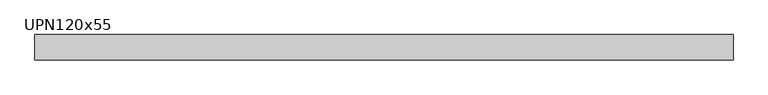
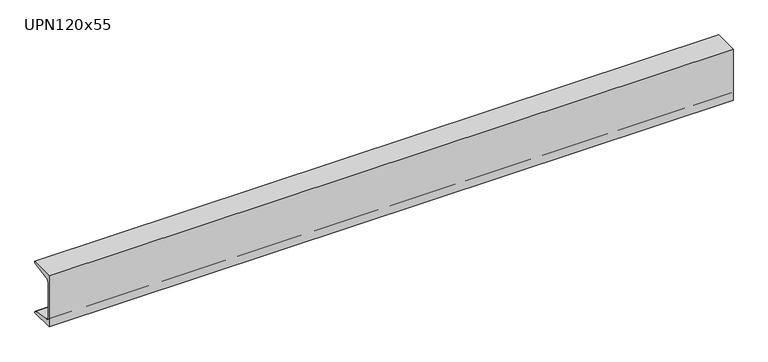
"""IFC4 building model written with IfcOpenShell, lengths in millimetres: beam geometry, M_MC Shapes : UPN120x55."""

import ifcopenshell
import ifcopenshell.guid

model = None  # the IFC model being written
_history = None  # IfcOwnerHistory: only IFC2X3 demands one
_inside = {}  # id of a spatial element -> (the spatial element, [elements in it])
_under = {}  # id of a project, library or spatial element -> (it, [spatial elements below it])
_declared = {}  # id of a project -> (the project, [libraries it declares])
_typed = {}  # id of a type object -> (the type object, [elements of that type])
_made_of = {}  # id of a material, layer set ... -> (it, [elements and type objects made of it])


def new_model(schema):
    """Start an empty IFC model of exactly this schema.

    Asked for "IFC4X3", IfcOpenShell would pick the latest addendum, in which some entities
    have other attributes; the version numbers below select the first issue.
    IFC2X3 requires an IfcOwnerHistory on every rooted entity: one is made here for all.
    """
    global model, _history
    if schema == "IFC4X3":
        model = ifcopenshell.file(schema_version=(4, 3, 0, 0))
    else:
        model = ifcopenshell.file(schema=schema)
    _inside.clear()
    _under.clear()
    _declared.clear()
    _typed.clear()
    _made_of.clear()
    _history = None
    if model.schema == "IFC2X3":
        org = make("IfcOrganization", Name="unknown")
        user = make(
            "IfcPersonAndOrganization",
            ThePerson=make("IfcPerson", FamilyName="unknown"),
            TheOrganization=org,
        )
        app = make(
            "IfcApplication",
            ApplicationDeveloper=org,
            Version="unknown",
            ApplicationFullName="unknown",
            ApplicationIdentifier="unknown",
        )
        _history = make(
            "IfcOwnerHistory",
            OwningUser=user,
            OwningApplication=app,
            ChangeAction="ADDED",
            CreationDate=0,
        )
    return model


def make(cls, **values):
    """One entity of the class cls with the attributes given. An attribute that is None is left unset."""
    return model.create_entity(
        cls, **{name: value for name, value in values.items() if value is not None}
    )


def rooted(cls, **values):
    """An entity with a GlobalId (a new one), such as an element, a storey or a relation."""
    return make(cls, GlobalId=ifcopenshell.guid.new(), OwnerHistory=_history, **values)


def si_unit(unit_type, name, prefix=None):
    """IfcSIUnit, for example si_unit("LENGTHUNIT", "METRE", prefix="MILLI")."""
    return make("IfcSIUnit", UnitType=unit_type, Prefix=prefix, Name=name)


def assignment(units):
    """IfcUnitAssignment: the units of a project."""
    return None if units is None else make("IfcUnitAssignment", Units=units)


def point(xyz):
    """IfcCartesianPoint."""
    return None if xyz is None else make("IfcCartesianPoint", Coordinates=xyz)


def direction(xyz):
    """IfcDirection."""
    return None if xyz is None else make("IfcDirection", DirectionRatios=xyz)


def frame(location, z_axis=None, x_axis=None):
    """IfcAxis2Placement3D, a coordinate frame: its origin and axes. An axis left out is left unset."""
    return make(
        "IfcAxis2Placement3D",
        Location=point(location),
        Axis=direction(z_axis),
        RefDirection=direction(x_axis),
    )


def frame_2d(location, x_axis=None):
    """IfcAxis2Placement2D, a coordinate frame in the plane: its origin and x axis."""
    return make(
        "IfcAxis2Placement2D", Location=point(location), RefDirection=direction(x_axis)
    )


def origin():
    """The frame at (0, 0, 0) with its axes left unset."""
    return frame((0.0, 0.0, 0.0))


def place(relative_to, where):
    """IfcLocalPlacement: puts the frame where relative to a parent placement (None: the world)."""
    return make(
        "IfcLocalPlacement", PlacementRelTo=relative_to, RelativePlacement=where
    )


def context(
    kind, dimensions, precision=None, world=None, true_north=None, identifier=None
):
    """IfcGeometricRepresentationContext, for example the 3D "Model" context."""
    return make(
        "IfcGeometricRepresentationContext",
        ContextIdentifier=identifier,
        ContextType=kind,
        CoordinateSpaceDimension=dimensions,
        Precision=precision,
        WorldCoordinateSystem=world,
        TrueNorth=true_north,
    )


def project(units=None, contexts=None):
    """IfcProject with its units and contexts."""
    return rooted(
        "IfcProject",
        Name="project",
        RepresentationContexts=contexts,
        UnitsInContext=assignment(units),
    )


def spatial(cls, under=None, at=None, **own):
    """A site, building, storey or space (cls), placed at a placement, below another one or the project."""
    s = rooted(cls, ObjectPlacement=at, **own)
    if under is not None:
        _under.setdefault(under.id(), (under, []))[1].append(s)
    return s


def polyline(points):
    """IfcPolyline through the points."""
    return make("IfcPolyline", Points=[point(p) for p in points])


def circle_curve(where, radius):
    """IfcCircle in the frame where."""
    return make("IfcCircle", Position=where, Radius=radius)


def trimmed(basis, trim1, trim2, sense, master):
    """IfcTrimmedCurve: the piece of a basis curve between two trims."""
    return make(
        "IfcTrimmedCurve",
        BasisCurve=basis,
        Trim1=trim1,
        Trim2=trim2,
        SenseAgreement=sense,
        MasterRepresentation=master,
    )


def segment(curve, same_sense, transition):
    """IfcCompositeCurveSegment."""
    return make(
        "IfcCompositeCurveSegment",
        Transition=transition,
        SameSense=same_sense,
        ParentCurve=curve,
    )


def composite_curve(segments, self_intersect=None):
    """IfcCompositeCurve: segments joined end to end."""
    return make("IfcCompositeCurve", Segments=segments, SelfIntersect=self_intersect)


def outline(outer, holes=None, kind="AREA"):
    """IfcArbitraryClosedProfileDef: a profile drawn as a closed curve; with holes, ...WithVoids."""
    if holes is None:
        return make("IfcArbitraryClosedProfileDef", ProfileType=kind, OuterCurve=outer)
    return make(
        "IfcArbitraryProfileDefWithVoids",
        ProfileType=kind,
        OuterCurve=outer,
        InnerCurves=holes,
    )


def extrude(swept, where, along, depth):
    """IfcExtrudedAreaSolid: the profile swept, set in the frame where, extruded along a direction by depth."""
    return make(
        "IfcExtrudedAreaSolid",
        SweptArea=swept,
        Position=where,
        ExtrudedDirection=direction(along),
        Depth=depth,
    )


def shape(context_of_items, identifier, shape_type, items):
    """IfcShapeRepresentation: the items that make up one representation, for example the "Body"."""
    return make(
        "IfcShapeRepresentation",
        ContextOfItems=context_of_items,
        RepresentationIdentifier=identifier,
        RepresentationType=shape_type,
        Items=items,
    )


def source(mapping_origin, context_of_items, identifier, shape_type, items):
    """IfcRepresentationMap: a shape defined once, which mapped items show again and again."""
    return make(
        "IfcRepresentationMap",
        MappingOrigin=mapping_origin,
        MappedRepresentation=shape(context_of_items, identifier, shape_type, items),
    )


def transform(
    local_origin,
    x_axis=None,
    y_axis=None,
    z_axis=None,
    scale=None,
    scale2=None,
    scale3=None,
    uniform=True,
):
    """IfcCartesianTransformationOperator3D, or its non-uniform kind. x_axis, y_axis, z_axis: its Axis1, 2, 3."""
    if uniform:
        return make(
            "IfcCartesianTransformationOperator3D",
            Axis1=direction(x_axis),
            Axis2=direction(y_axis),
            LocalOrigin=point(local_origin),
            Scale=scale,
            Axis3=direction(z_axis),
        )
    return make(
        "IfcCartesianTransformationOperator3DnonUniform",
        Axis1=direction(x_axis),
        Axis2=direction(y_axis),
        LocalOrigin=point(local_origin),
        Scale=scale,
        Axis3=direction(z_axis),
        Scale2=scale2,
        Scale3=scale3,
    )


def mapped(mapping_source, mapping_target):
    """IfcMappedItem: shows the shape of a source again, moved by a transform."""
    return make(
        "IfcMappedItem", MappingSource=mapping_source, MappingTarget=mapping_target
    )


def made_of(thing, what):
    """Note that an element or type object is made of a material, layer set ...; save() writes the relation."""
    if what is not None:
        _made_of.setdefault(what.id(), (what, []))[1].append(thing)
    return thing


def element(
    cls,
    number,
    at=None,
    inside=None,
    cuts=None,
    type_object=None,
    material=None,
    context=None,
    identifier="Body",
    shape_type=None,
    held_by="IfcProductDefinitionShape",
    body=None,
    shapes=None,
    **own,
):
    """One element of the class cls, such as IfcWall. Its Tag is "e" and its number.

    at: its placement. inside: the storey or other place that contains it. cuts: it is an
    opening in that element (IfcRelVoidsElement). A single representation is given by context,
    identifier, shape_type and body (its items); several are given by shapes. held_by: the class
    of the entity that holds the representations. save() writes the other relations.
    """
    e = rooted(cls, Tag="e%d" % number, ObjectPlacement=at, **own)
    if body is not None:
        shapes = [shape(context, identifier, shape_type, body)]
    if shapes is not None:
        e.Representation = make(held_by, Representations=shapes)
    if inside is not None:
        _inside.setdefault(inside.id(), (inside, []))[1].append(e)
    if cuts is not None:
        rooted(
            "IfcRelVoidsElement", RelatingBuildingElement=cuts, RelatedOpeningElement=e
        )
    if type_object is not None:
        _typed.setdefault(type_object.id(), (type_object, []))[1].append(e)
    return made_of(e, material)


def aggregate(whole, parts):
    """IfcRelAggregates: a whole, such as a stair, and the parts it consists of."""
    return rooted("IfcRelAggregates", RelatingObject=whole, RelatedObjects=parts)


def save(model, path):
    """Write the relations noted so far, then the file.

    IfcRelAggregates (storeys below a building ...), IfcRelContainedInSpatialStructure (elements
    in a storey), IfcRelDefinesByType, IfcRelAssociatesMaterial and IfcRelDeclares: one each for
    every whole, place, type object, material and project.
    """
    for whole, parts in _under.values():
        aggregate(whole, parts)
    for where, things in _inside.values():
        rooted(
            "IfcRelContainedInSpatialStructure",
            RelatedElements=things,
            RelatingStructure=where,
        )
    for kind, things in _typed.values():
        rooted("IfcRelDefinesByType", RelatedObjects=things, RelatingType=kind)
    for what, things in _made_of.values():
        rooted("IfcRelAssociatesMaterial", RelatedObjects=things, RelatingMaterial=what)
    for by, libraries in _declared.values():
        rooted("IfcRelDeclares", RelatingContext=by, RelatedDefinitions=libraries)
    model.write(path)


def upn120x55_2e91fe93(model_context):
    return source(origin(), model_context, "Body", "SweptSolid", [
        extrude(outline(composite_curve([segment(polyline([(-10.9, 60.0), (44.1, 60.0), (44.1, 59.0253247)]), True, "CONTINUOUS"), segment(trimmed(circle_curve(frame_2d((40.15, 59.0253247)), 3.95), [point((44.1, 59.0253247))], [point((40.7993773, 55.1290689))], False, "CARTESIAN"), True, "CONTINUOUS"), segment(polyline([(40.7993773, 55.1290689), (0.2512455, 48.3710335)]), True, "CONTINUOUS"), segment(trimmed(circle_curve(frame_2d((1.55, 40.5785219)), 7.9), [point((0.2512455, 48.3710335))], [point((-6.35, 40.5785219))], True, "CARTESIAN"), True, "CONTINUOUS"), segment(polyline([(-6.35, 40.5785219), (-6.35, -40.5785219)]), True, "CONTINUOUS"), segment(trimmed(circle_curve(frame_2d((1.55, -40.5785219)), 7.9), [point((-6.35, -40.5785219))], [point((0.2512455, -48.3710335))], True, "CARTESIAN"), True, "CONTINUOUS"), segment(polyline([(0.2512455, -48.3710335), (40.7993773, -55.1290689)]), True, "CONTINUOUS"), segment(trimmed(circle_curve(frame_2d((40.15, -59.0253247)), 3.95), [point((40.7993773, -55.1290689))], [point((44.1, -59.0253247))], False, "CARTESIAN"), True, "CONTINUOUS"), segment(polyline([(44.1, -59.0253247), (44.1, -60.0), (-10.9, -60.0), (-10.9, 60.0)]), True, "CONTINUOUS")], self_intersect=False)), frame((-758.9, 0.0, 0.0), z_axis=(1.0, 0.0, 0.0), x_axis=(0.0, 1.0, 0.0)), (0.0, 0.0, 1.0), 1517.8),
    ])


if __name__ == "__main__":
    model = new_model("IFC4")
    model_context = context("Model", 3, world=origin())
    ifc_project = project(units=[si_unit("LENGTHUNIT", "METRE", prefix="MILLI")], contexts=[model_context])
    site = spatial("IfcSite", under=ifc_project)
    building = spatial("IfcBuilding", under=site)
    placement = place(None, origin())
    upn120x55_shape = upn120x55_2e91fe93(model_context)
    element("IfcBeam", 1, ObjectType="M_MC Shapes : UPN120x55", at=placement, inside=building, context=model_context, shape_type="MappedRepresentation", body=[
        mapped(upn120x55_shape, transform((0.0, 0.0, 0.0), x_axis=(1.0, 0.0, 0.0), y_axis=(0.0, 1.0, 0.0), z_axis=(0.0, 0.0, 1.0))),
    ])
    save(model, "model.ifc")
